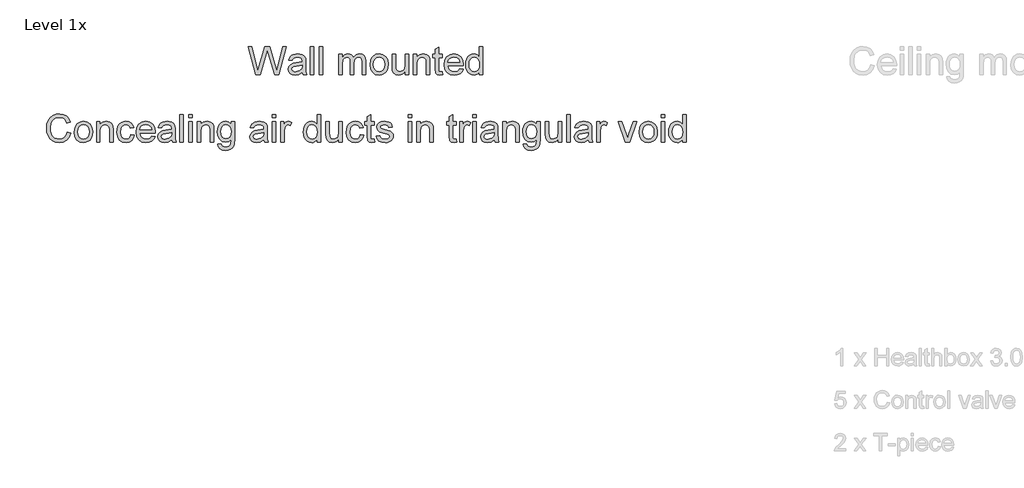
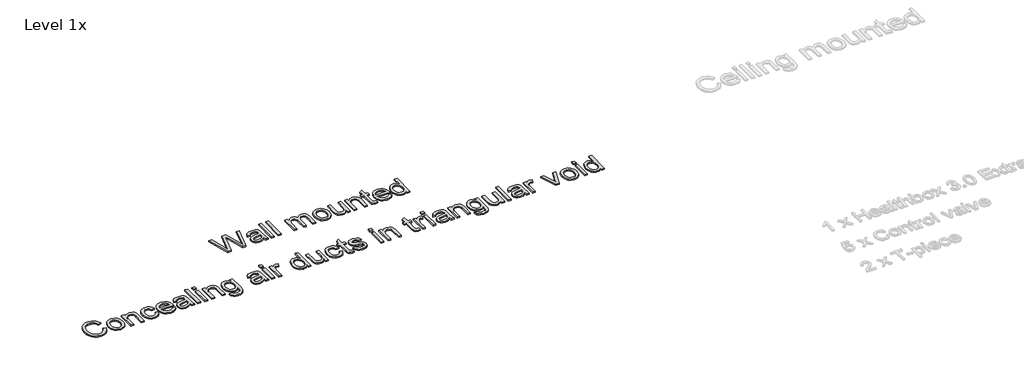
# One storey, part 5 of 7: 1 proxy.
"""IFC4 building model written with IfcOpenShell, lengths in millimetres."""

from ifc_helpers import new_model, si_unit, origin, origin_with_axes, place, context, project, spatial, polyline, outline, extrude, element, save

model = new_model("IFC4")

# Units and contexts
model_context = context("Model", 3, world=origin())
ifc_project = project(units=[si_unit("LENGTHUNIT", "METRE", prefix="MILLI")], contexts=[model_context])

# Site, building, storey
site = spatial("IfcSite", under=ifc_project)
building = spatial("IfcBuilding", under=site)
storey = spatial("IfcBuildingStorey", under=building, Name="Level 1x", Elevation=0.0)

# Proxy
placement = place(None, origin())
element("IfcBuildingElementProxy", 1, Name="190mm Arial", ObjectType="190mm Arial", at=placement, inside=storey, context=model_context, shape_type="SweptSolid", body=[
    extrude(outline(polyline([(-15730.0854469, 313.1270961), (-15782.1358442, 503.9940853), (-15757.5318963, 503.9940853), (-15727.3361422, 378.5512301), (-15718.016465, 339.8279713), (-15708.0444103, 374.077785), (-15670.2065209, 503.9940853), (-15634.7451491, 503.9940853), (-15607.2521013, 409.8187471), (-15586.7954098, 339.8279713), (-15577.7553229, 377.4328688), (-15547.2799785, 503.9940853), (-15522.6760306, 503.9940853), (-15574.7730262, 313.1270961), (-15600.2623434, 313.1270961), (-15646.0219585, 460.377996), (-15652.4059374, 480.9278842), (-15659.5820888, 456.1841412), (-15701.2876444, 313.1270961), (-15730.0854469, 313.1270961)])), origin_with_axes(), (0.0, 0.0, 1.0), 10.0),
    extrude(outline(polyline([(-15412.3310524, 331.0208763), (-15435.4671511, 314.8512363), (-15461.0263659, 310.1447993), (-15480.9646503, 312.9756513), (-15495.6722659, 321.4682072), (-15504.7414768, 334.3643105), (-15507.7645471, 350.4058049), (-15503.1979052, 369.2781512), (-15491.1988208, 382.9780767), (-15474.4932994, 390.8066056), (-15453.8502144, 394.3946813), (-15412.4708476, 402.5959973), (-15412.3310524, 407.9082133), (-15413.9736455, 418.5559445), (-15418.9014249, 425.5224032), (-15429.9219432, 430.6948241), (-15445.2761114, 432.4189644), (-15469.4140754, 427.8290233), (-15476.1824909, 421.4625188), (-15480.9238767, 411.5428874), (-15504.7822504, 414.5251841), (-15494.4607079, 437.8243771), (-15485.6652625, 445.6645556), (-15473.6778277, 451.4777043), (-15442.2006179, 456.277338), (-15413.2863193, 452.0368849), (-15396.953585, 441.3891537), (-15389.6376384, 425.1962145), (-15388.4726788, 404.3201376), (-15388.4726788, 374.6369656), (-15387.2611207, 333.1877012), (-15382.5080854, 313.1270961), (-15406.366459, 313.1270961), (-15412.3310524, 331.0208763)]), holes=[polyline([(-15412.3310524, 378.7376236), (-15450.8213193, 371.421677), (-15471.3479084, 367.554011), (-15480.6442864, 361.2632288), (-15483.9061734, 352.0833468), (-15482.1296099, 344.9887425), (-15476.7999195, 339.1755939), (-15468.0335982, 335.2962782), (-15455.9471418, 334.003173), (-15431.8091778, 339.7114753), (-15416.2453169, 353.5278968), (-15412.4708476, 371.9808576), (-15412.3310524, 378.7376236)])]), origin_with_axes(), (0.0, 0.0, 1.0), 10.0),
    extrude(outline(polyline([(-15355.667415, 313.1270961), (-15355.667415, 503.9940853), (-15331.8090413, 503.9940853), (-15331.8090413, 313.1270961), (-15355.667415, 313.1270961)])), origin_with_axes(), (0.0, 0.0, 1.0), 10.0),
    extrude(outline(polyline([(-15296.0214808, 313.1270961), (-15296.0214808, 503.9940853), (-15272.1631072, 503.9940853), (-15272.1631072, 313.1270961), (-15296.0214808, 313.1270961)])), origin_with_axes(), (0.0, 0.0, 1.0), 10.0),
    extrude(outline(polyline([(-15161.818129, 313.1270961), (-15161.818129, 453.2950413), (-15137.9597553, 453.2950413), (-15137.9597553, 430.2288402), (-15121.5571234, 449.1244858), (-15110.5948531, 454.489125), (-15098.211332, 456.277338), (-15084.9424416, 454.4541762), (-15074.30636, 448.9846906), (-15066.3613352, 440.2300188), (-15061.1656151, 428.5512983), (-15052.4691913, 440.6814407), (-15042.5495599, 449.3458281), (-15031.4067208, 454.5444605), (-15019.0406741, 456.277338), (-15001.1061203, 453.3940629), (-14987.8430547, 444.7442375), (-14979.6475635, 430.0948699), (-14976.9157331, 409.2129681), (-14976.9157331, 313.1270961), (-15000.7741068, 313.1270961), (-15000.7741068, 398.9613232), (-15002.9875301, 418.8821332), (-15011.0024525, 428.6910935), (-15024.6324805, 432.4189644), (-15037.5577078, 430.0307971), (-15048.0947678, 422.8662952), (-15055.1020001, 410.4361757), (-15057.4377442, 392.2511556), (-15057.4377442, 313.1270961), (-15081.2961179, 313.1270961), (-15081.2961179, 401.6174312), (-15082.6765951, 415.1076639), (-15086.8180266, 424.7302307), (-15094.1048493, 430.4967809), (-15104.9214996, 432.4189644), (-15122.5822879, 427.2931419), (-15129.5720458, 420.9790606), (-15134.3250812, 412.2884616), (-15137.9597553, 383.8168477), (-15137.9597553, 313.1270961), (-15161.818129, 313.1270961)])), origin_with_axes(), (0.0, 0.0, 1.0), 10.0),
    extrude(outline(polyline([(-14947.0927661, 383.2110687), (-14941.9319948, 417.0065482), (-14935.4810307, 430.1385558), (-14926.449681, 440.7600755), (-14907.3210436, 452.3980224), (-14884.4179368, 456.277338), (-14859.3538299, 451.5534266), (-14839.3339983, 437.3816925), (-14826.2107278, 414.8804968), (-14821.8363043, 385.1682009), (-14823.7701374, 361.0651857), (-14829.5716364, 342.7170712), (-14839.0718824, 328.9763721), (-14852.1019561, 318.6956032), (-14867.578445, 312.2825003), (-14884.4179368, 310.1447993), (-14909.7849332, 314.8512363), (-14929.7814656, 328.9705473), (-14942.764941, 351.9435516), (-14947.0927661, 383.2110687)]), holes=[polyline([(-14923.2343924, 383.2576671), (-14920.473438, 361.6651399), (-14912.1905749, 346.2818477), (-14899.7255066, 337.0728417), (-14884.4179368, 334.003173), (-14869.1802646, 337.0903161), (-14856.7384955, 346.3517453), (-14848.4556324, 361.9389054), (-14845.694678, 384.0032412), (-14848.4731068, 404.9666902), (-14856.8083931, 420.1402896), (-14869.2676365, 429.3492957), (-14884.4179368, 432.4189644), (-14899.7255066, 429.3609453), (-14912.1905749, 420.186888), (-14920.473438, 404.8385446), (-14923.2343924, 383.2576671)])]), origin_with_axes(), (0.0, 0.0, 1.0), 10.0),
    extrude(outline(polyline([(-14705.5267327, 313.1270961), (-14705.5267327, 337.2184616), (-14714.1590838, 325.3737344), (-14724.2126856, 316.9132149), (-14735.6875381, 311.8369032), (-14748.5836415, 310.1447993), (-14771.0207643, 314.8978347), (-14786.4914285, 326.8270216), (-14793.5976824, 344.3946131), (-14794.995634, 366.5754449), (-14794.995634, 453.2950413), (-14771.1372603, 453.2950413), (-14771.1372603, 377.8056559), (-14769.6927103, 353.4812984), (-14760.2565372, 339.1988931), (-14742.4792529, 334.003173), (-14722.5584428, 339.315389), (-14714.6192428, 345.5886967), (-14709.3943988, 353.7841879), (-14705.5267327, 380.3685671), (-14705.5267327, 453.2950413), (-14681.6683591, 453.2950413), (-14681.6683591, 313.1270961), (-14705.5267327, 313.1270961)])), origin_with_axes(), (0.0, 0.0, 1.0), 10.0),
    extrude(outline(polyline([(-14648.8630953, 313.1270961), (-14648.8630953, 453.2950413), (-14625.0047216, 453.2950413), (-14625.0047216, 433.7237192), (-14616.7160337, 443.5909274), (-14606.7614535, 450.6389333), (-14581.8546162, 456.277338), (-14559.3242965, 451.7339954), (-14543.9468291, 439.8048085), (-14536.7939768, 422.2605162), (-14535.5358204, 399.1943151), (-14535.5358204, 313.1270961), (-14559.3941941, 313.1270961), (-14559.3941941, 395.9790265), (-14562.1434988, 417.0880953), (-14571.8592623, 428.2484088), (-14588.238595, 432.4189644), (-14602.2122861, 430.0773955), (-14614.1239985, 423.0526888), (-14622.2845409, 409.4809088), (-14625.0047216, 387.4981202), (-14625.0047216, 313.1270961), (-14648.8630953, 313.1270961)])), origin_with_axes(), (0.0, 0.0, 1.0), 10.0),
    extrude(outline(polyline([(-14452.0315126, 333.0246069), (-14449.0492159, 312.4281203), (-14466.8963978, 310.1447993), (-14486.8871054, 314.1056622), (-14496.85916, 324.4971022), (-14499.7482599, 351.5707645), (-14499.7482599, 429.4366676), (-14517.6420402, 429.4366676), (-14517.6420402, 453.2950413), (-14499.7482599, 453.2950413), (-14499.7482599, 487.3584615), (-14475.8898863, 501.3845757), (-14475.8898863, 453.2950413), (-14452.0315126, 453.2950413), (-14452.0315126, 429.4366676), (-14475.8898863, 429.4366676), (-14475.8898863, 352.2697403), (-14474.6317298, 339.9677664), (-14470.5543711, 335.6108173), (-14462.4229527, 334.003173), (-14452.0315126, 333.0246069)])), origin_with_axes(), (0.0, 0.0, 1.0), 10.0),
    extrude(outline(polyline([(-14330.0369379, 354.87925), (-14306.6445481, 351.8969533), (-14315.0730312, 334.2711137), (-14328.5224904, 321.0954201), (-14346.6900361, 312.8824545), (-14369.272779, 310.1447993), (-14397.2667594, 314.8687107), (-14418.8068633, 329.0404449), (-14432.5417376, 351.7396837), (-14437.1200291, 382.046109), (-14432.4951392, 413.3718741), (-14418.6204698, 436.7992126), (-14397.3716058, 451.4078067), (-14370.6241322, 456.277338), (-14344.7096047, 451.4194563), (-14324.0024469, 436.845811), (-14310.4248422, 413.4650708), (-14305.8989739, 382.1859042), (-14306.0387691, 375.7553269), (-14413.2616554, 375.7553269), (-14409.1318734, 357.8964955), (-14399.5384307, 344.7674002), (-14385.6928853, 336.6942298), (-14368.8067951, 334.003173), (-14345.4144053, 338.9892003), (-14336.7238063, 345.4547264), (-14330.0369379, 354.87925)]), holes=[polyline([(-14413.2616554, 399.6137006), (-14329.7573476, 399.6137006), (-14332.9842858, 412.218564), (-14339.3100167, 421.2353517), (-14353.219635, 429.6230612), (-14370.7173289, 432.4189644), (-14386.7995969, 430.1880666), (-14400.0976113, 423.4953734), (-14409.3415662, 413.0631597), (-14413.2616554, 399.6137006)])]), origin_with_axes(), (0.0, 0.0, 1.0), 10.0),
    extrude(outline(polyline([(-14195.5539957, 313.1270961), (-14195.5539957, 335.6341165), (-14202.692286, 324.4825403), (-14211.339199, 316.5171286), (-14221.4947348, 311.7378817), (-14233.1588933, 310.1447993), (-14248.5829591, 312.4514195), (-14262.7022701, 319.3712798), (-14274.6547561, 330.4209221), (-14283.578347, 345.1168881), (-14289.1352045, 362.8650484), (-14290.9874904, 383.0712735), (-14289.2808245, 403.0270324), (-14284.1608268, 421.0489582), (-14275.6333222, 436.1118864), (-14263.7041354, 447.1906527), (-14249.2761101, 454.0056667), (-14233.2520901, 456.277338), (-14221.5791944, 454.6522193), (-14211.2576518, 449.7768632), (-14195.5539957, 432.8849482), (-14195.5539957, 503.9940853), (-14171.6956221, 503.9940853), (-14171.6956221, 313.1270961), (-14195.5539957, 313.1270961)]), holes=[polyline([(-14267.1291167, 383.1644703), (-14264.4380599, 361.5835928), (-14256.3648896, 346.2352493), (-14244.6337459, 337.0611921), (-14230.9687692, 334.003173), (-14217.3096172, 336.9213969), (-14205.8755383, 345.6760687), (-14198.1343814, 360.4302827), (-14195.5539957, 381.3471332), (-14198.1809798, 404.2152912), (-14206.0619318, 420.0703921), (-14217.7872507, 429.3318213), (-14231.9473353, 432.4189644), (-14245.7521071, 429.454142), (-14257.0638653, 420.5596751), (-14264.6128039, 405.2812293), (-14267.1291167, 383.1644703)])]), origin_with_axes(), (0.0, 0.0, 1.0), 10.0),
    extrude(outline(polyline([(-17024.2624229, -82.5299617), (-17000.4040492, -88.6809486), (-17011.4129179, -116.4827107), (-17028.6892696, -136.7937822), (-17051.3826836, -149.2180769), (-17078.6427394, -153.3595085), (-17106.3163559, -150.225767), (-17128.2933197, -140.8245426), (-17145.1386363, -125.482024), (-17157.417311, -104.5243999), (-17164.9138264, -79.8855033), (-17167.4126648, -53.4991671), (-17164.5876377, -25.6682811), (-17156.1125562, -1.6351635), (-17142.4301051, 17.8371371), (-17123.982969, 31.9855721), (-17102.1050268, 40.6004487), (-17078.1301572, 43.4720742), (-17051.9709882, 39.7558529), (-17030.3435123, 28.6071891), (-17013.923406, 10.7134088), (-17003.3863459, -13.2381616), (-17027.2447196, -18.9231647), (-17035.5159331, -1.5244923), (-17046.8160417, 10.4105193), (-17061.2848406, 17.3129053), (-17079.0621249, 19.6137006), (-17099.5537651, 17.0624389), (-17116.3874321, 9.408654), (-17129.1612147, -2.543832), (-17137.4732018, -17.991197), (-17143.5542912, -53.4525688), (-17141.7544285, -75.4936054), (-17136.3548405, -94.5523453), (-17127.1516593, -109.9006887), (-17113.9410168, -120.8105358), (-17098.1033904, -127.3284851), (-17081.0192571, -129.5011348), (-17061.1042719, -126.5421373), (-17044.5094216, -117.6651447), (-17031.9802806, -102.9633539), (-17024.2624229, -82.5299617)])), origin_with_axes(), (0.0, 0.0, 1.0), 10.0),
    extrude(outline(polyline([(-16976.5456756, -80.2932391), (-16971.3849043, -46.4977596), (-16964.9339402, -33.365752), (-16955.9025905, -22.7442324), (-16936.7739531, -11.1062854), (-16913.8708463, -7.2269698), (-16888.8067394, -11.9508812), (-16868.7869078, -26.1226153), (-16855.6636373, -48.623811), (-16851.2892138, -78.3361069), (-16853.2230469, -102.4391221), (-16859.0245459, -120.7872366), (-16868.5247919, -134.5279357), (-16881.5548656, -144.8087046), (-16897.0313545, -151.2218075), (-16913.8708463, -153.3595085), (-16939.2378427, -148.6530715), (-16959.2343751, -134.5337605), (-16972.2178504, -111.5607562), (-16976.5456756, -80.2932391)]), holes=[polyline([(-16952.6873019, -80.2466407), (-16949.9263475, -101.8391679), (-16941.6434844, -117.2224601), (-16929.1784161, -126.4314661), (-16913.8708463, -129.5011348), (-16898.6331741, -126.4139917), (-16886.191405, -117.1525625), (-16877.9085419, -101.5654024), (-16875.1475875, -79.5010666), (-16877.9260163, -58.5376176), (-16886.2613026, -43.3640182), (-16898.720546, -34.1550121), (-16913.8708463, -31.0853435), (-16929.1784161, -34.1433625), (-16941.6434844, -43.3174198), (-16949.9263475, -58.6657632), (-16952.6873019, -80.2466407)])]), origin_with_axes(), (0.0, 0.0, 1.0), 10.0),
    extrude(outline(polyline([(-16824.4485435, -150.3772118), (-16824.4485435, -10.2092665), (-16800.5901698, -10.2092665), (-16800.5901698, -29.7805886), (-16792.3014819, -19.9133804), (-16782.3469017, -12.8653745), (-16757.4400643, -7.2269698), (-16734.9097447, -11.7703124), (-16719.5322773, -23.6994993), (-16712.379425, -41.2437916), (-16711.1212686, -64.3099927), (-16711.1212686, -150.3772118), (-16734.9796422, -150.3772118), (-16734.9796422, -67.5252814), (-16737.728947, -46.4162125), (-16747.4447105, -35.255899), (-16763.8240432, -31.0853435), (-16777.7977342, -33.4269124), (-16789.7094467, -40.4516191), (-16797.869989, -54.023399), (-16800.5901698, -76.0061876), (-16800.5901698, -150.3772118), (-16824.4485435, -150.3772118)])), origin_with_axes(), (0.0, 0.0, 1.0), 10.0),
    extrude(outline(polyline([(-16588.8471036, -99.6781677), (-16564.9887299, -102.6604644), (-16571.6406495, -123.8802045), (-16584.1406666, -139.9158741), (-16601.3121718, -149.9985999), (-16621.9785561, -153.3595085), (-16647.3572021, -148.6705459), (-16667.2022897, -134.6036581), (-16680.0110211, -111.7762737), (-16684.2805982, -80.8058214), (-16682.4574364, -59.5744317), (-16676.9879508, -41.173894), (-16667.7847695, -26.3148337), (-16654.7605206, -15.7078761), (-16639.1791853, -9.3471964), (-16622.3047448, -7.2269698), (-16602.145118, -10.1393689), (-16586.0279012, -18.8765663), (-16574.4656767, -32.9725781), (-16567.9710266, -51.9614204), (-16591.8294003, -54.9437171), (-16596.1572254, -44.5348026), (-16602.896517, -37.0732361), (-16611.6744879, -32.5823166), (-16622.1183512, -31.0853435), (-16637.5365922, -34.0326914), (-16649.7744933, -42.8747351), (-16657.7602917, -58.0891082), (-16660.4222246, -80.153444), (-16657.8185397, -102.5148445), (-16650.0074853, -117.7816407), (-16637.9909265, -126.5712613), (-16622.7707286, -129.5011348), (-16610.4163315, -127.6721482), (-16600.2870073, -122.1851882), (-16592.9186376, -112.9004598), (-16588.8471036, -99.6781677)])), origin_with_axes(), (0.0, 0.0, 1.0), 10.0),
    extrude(outline(polyline([(-16445.9764519, -108.6250579), (-16422.5840621, -111.6073546), (-16431.0125452, -129.2331941), (-16444.4620044, -142.4088877), (-16462.6295501, -150.6218533), (-16485.212293, -153.3595085), (-16513.2062734, -148.6355971), (-16534.7463774, -134.4638629), (-16548.4812516, -111.7646241), (-16553.0595431, -81.4581988), (-16548.4346533, -50.1324338), (-16534.5599838, -26.7050952), (-16513.3111198, -12.0965011), (-16486.5636462, -7.2269698), (-16460.6491187, -12.0848515), (-16439.9419609, -26.6584968), (-16426.3643562, -50.039237), (-16421.8384879, -81.3184036), (-16421.9782831, -87.7489809), (-16529.2011694, -87.7489809), (-16525.0713875, -105.6078124), (-16515.4779447, -118.7369076), (-16501.6323993, -126.810078), (-16484.7463091, -129.5011348), (-16461.3539193, -124.5151075), (-16452.6633203, -118.0495814), (-16445.9764519, -108.6250579)]), holes=[polyline([(-16529.2011694, -63.8906072), (-16445.6968616, -63.8906072), (-16448.9237998, -51.2857438), (-16455.2495307, -42.2689561), (-16469.159149, -33.8812466), (-16486.656843, -31.0853435), (-16502.7391109, -33.3162412), (-16516.0371254, -40.0089344), (-16525.2810802, -50.4411481), (-16529.2011694, -63.8906072)])]), origin_with_axes(), (0.0, 0.0, 1.0), 10.0),
    extrude(outline(polyline([(-16308.5112131, -132.4834315), (-16331.6473117, -148.6530715), (-16357.2065265, -153.3595085), (-16377.1448109, -150.5286565), (-16391.8524265, -142.0361007), (-16400.9216374, -129.1399973), (-16403.9447077, -113.0985029), (-16399.3780659, -94.2261566), (-16387.3789815, -80.5262311), (-16370.6734601, -72.6977022), (-16350.030375, -69.1096265), (-16308.6510082, -60.9083105), (-16308.5112131, -55.5960945), (-16310.1538062, -44.9483633), (-16315.0815855, -37.9819046), (-16326.1021038, -32.8094837), (-16341.456272, -31.0853435), (-16365.594236, -35.6752845), (-16372.3626516, -42.041789), (-16377.1040373, -51.9614204), (-16400.962411, -48.9791237), (-16390.6408685, -25.6799307), (-16381.8454231, -17.8397522), (-16369.8579883, -12.0266036), (-16338.3807785, -7.2269698), (-16309.46648, -11.4674229), (-16293.1337457, -22.1151541), (-16285.8177991, -38.3080933), (-16284.6528394, -59.1841702), (-16284.6528394, -88.8673422), (-16283.4412814, -130.3166066), (-16278.688246, -150.3772118), (-16302.5466196, -150.3772118), (-16308.5112131, -132.4834315)]), holes=[polyline([(-16308.5112131, -84.7666842), (-16347.0014799, -92.0826308), (-16367.528069, -95.9502968), (-16376.824447, -102.241079), (-16380.086334, -111.420961), (-16378.3097706, -118.5155653), (-16372.9800802, -124.328714), (-16364.2137588, -128.2080296), (-16352.1273024, -129.5011348), (-16327.9893384, -123.7928325), (-16312.4254775, -109.976411), (-16308.6510082, -91.5234502), (-16308.5112131, -84.7666842)])]), origin_with_axes(), (0.0, 0.0, 1.0), 10.0),
    extrude(outline(polyline([(-16251.8475756, -150.3772118), (-16251.8475756, 40.4897775), (-16227.989202, 40.4897775), (-16227.989202, -150.3772118), (-16251.8475756, -150.3772118)])), origin_with_axes(), (0.0, 0.0, 1.0), 10.0),
    extrude(outline(polyline([(-16192.2016415, -150.3772118), (-16192.2016415, -10.2092665), (-16168.3432678, -10.2092665), (-16168.3432678, -150.3772118), (-16192.2016415, -150.3772118)])), origin_with_axes(), (0.0, 0.0, 1.0), 10.0),
    extrude(outline(polyline([(-16192.2016415, 16.6314039), (-16192.2016415, 40.4897775), (-16168.3432678, 40.4897775), (-16168.3432678, 16.6314039), (-16192.2016415, 16.6314039)])), origin_with_axes(), (0.0, 0.0, 1.0), 10.0),
    extrude(outline(polyline([(-16132.5557073, -150.3772118), (-16132.5557073, -10.2092665), (-16108.6973337, -10.2092665), (-16108.6973337, -29.7805886), (-16100.4086457, -19.9133804), (-16090.4540655, -12.8653745), (-16065.5472282, -7.2269698), (-16043.0169085, -11.7703124), (-16027.6394411, -23.6994993), (-16020.4865888, -41.2437916), (-16019.2284324, -64.3099927), (-16019.2284324, -150.3772118), (-16043.0868061, -150.3772118), (-16043.0868061, -67.5252814), (-16045.8361109, -46.4162125), (-16055.5518744, -35.255899), (-16071.9312071, -31.0853435), (-16085.9048981, -33.4269124), (-16097.8166105, -40.4516191), (-16105.9771529, -54.023399), (-16108.6973337, -76.0061876), (-16108.6973337, -150.3772118), (-16132.5557073, -150.3772118)])), origin_with_axes(), (0.0, 0.0, 1.0), 10.0),
    extrude(outline(polyline([(-15992.3877621, -162.3063986), (-15968.5293884, -165.2886953), (-15965.8965796, -172.7444371), (-15960.7940563, -177.8702595), (-15950.7637537, -181.8544215), (-15937.6346584, -183.1824755), (-15923.6318434, -181.6796776), (-15913.2171041, -177.1712837), (-15905.9943543, -169.9485339), (-15901.5675076, -160.302668), (-15899.9365641, -132.4834315), (-15916.7352823, -145.9037667), (-15937.215273, -150.3772118), (-15961.813396, -145.1698421), (-15980.1556857, -129.5477332), (-15991.5664655, -106.6446264), (-15995.3700588, -79.5942633), (-15993.6633929, -60.3316555), (-15988.5433952, -42.618444), (-15980.1906345, -27.6079389), (-15968.7856795, -16.4534502), (-15954.7187917, -9.5335899), (-15938.3802326, -7.2269698), (-15917.0964198, -12.445989), (-15899.9365641, -28.1030467), (-15899.9365641, -10.2092665), (-15876.0781905, -10.2092665), (-15876.0781905, -131.2252751), (-15877.709134, -159.1668323), (-15882.6019645, -177.56737), (-15891.0304476, -189.7703224), (-15903.2683487, -199.1191236), (-15919.0477272, -205.0604178), (-15938.1006423, -207.0408492), (-15960.2989485, -204.2507708), (-15977.779168, -195.8805357), (-15988.9919047, -181.9068447), (-15992.3877621, -162.3063986)]), holes=[polyline([(-15971.5116851, -77.9633198), (-15968.9662483, -99.8470869), (-15961.3299378, -114.8925408), (-15949.8492604, -123.6122638), (-15935.770723, -126.5188381), (-15921.797032, -123.6297382), (-15910.2581066, -114.9624384), (-15902.5169498, -100.1092028), (-15899.9365641, -78.6622956), (-15902.5926721, -57.978437), (-15910.5609961, -43.0844279), (-15922.2688406, -34.0851146), (-15936.1435101, -31.0853435), (-15949.7677132, -34.0385162), (-15961.1901426, -42.8980343), (-15968.9312995, -57.5707011), (-15971.5116851, -77.9633198)])]), origin_with_axes(), (0.0, 0.0, 1.0), 10.0),
    extrude(outline(polyline([(-15676.2643111, -132.4834315), (-15699.4004097, -148.6530715), (-15724.9596245, -153.3595085), (-15744.8979089, -150.5286565), (-15759.6055245, -142.0361007), (-15768.6747354, -129.1399973), (-15771.6978057, -113.0985029), (-15767.1311639, -94.2261566), (-15755.1320795, -80.5262311), (-15738.4265581, -72.6977022), (-15717.783473, -69.1096265), (-15676.4041062, -60.9083105), (-15676.2643111, -55.5960945), (-15677.9069042, -44.9483633), (-15682.8346835, -37.9819046), (-15693.8552018, -32.8094837), (-15709.20937, -31.0853435), (-15733.347334, -35.6752845), (-15740.1157495, -42.041789), (-15744.8571353, -51.9614204), (-15768.715509, -48.9791237), (-15758.3939665, -25.6799307), (-15749.5985211, -17.8397522), (-15737.6110863, -12.0266036), (-15706.1338765, -7.2269698), (-15677.219578, -11.4674229), (-15660.8868437, -22.1151541), (-15653.570897, -38.3080933), (-15652.4059374, -59.1841702), (-15652.4059374, -88.8673422), (-15651.1943794, -130.3166066), (-15646.441344, -150.3772118), (-15670.2997176, -150.3772118), (-15676.2643111, -132.4834315)]), holes=[polyline([(-15676.2643111, -84.7666842), (-15714.7545779, -92.0826308), (-15735.281167, -95.9502968), (-15744.577545, -102.241079), (-15747.839432, -111.420961), (-15746.0628686, -118.5155653), (-15740.7331782, -124.328714), (-15731.9668568, -128.2080296), (-15719.8804004, -129.5011348), (-15695.7424364, -123.7928325), (-15680.1785755, -109.976411), (-15676.4041062, -91.5234502), (-15676.2643111, -84.7666842)])]), origin_with_axes(), (0.0, 0.0, 1.0), 10.0),
    extrude(outline(polyline([(-15619.6006736, -150.3772118), (-15619.6006736, -10.2092665), (-15595.7423, -10.2092665), (-15595.7423, -150.3772118), (-15619.6006736, -150.3772118)])), origin_with_axes(), (0.0, 0.0, 1.0), 10.0),
    extrude(outline(polyline([(-15619.6006736, 16.6314039), (-15619.6006736, 40.4897775), (-15595.7423, 40.4897775), (-15595.7423, 16.6314039), (-15619.6006736, 16.6314039)])), origin_with_axes(), (0.0, 0.0, 1.0), 10.0),
    extrude(outline(polyline([(-15559.9547395, -150.3772118), (-15559.9547395, -10.2092665), (-15539.0786625, -10.2092665), (-15539.0786625, -30.9455483), (-15524.2603757, -11.84021), (-15509.3488922, -7.2269698), (-15497.4663038, -9.067606), (-15485.3973218, -14.5895148), (-15493.3656458, -35.978174), (-15510.1410648, -31.0853435), (-15523.6312975, -35.7917804), (-15532.2286998, -48.8393285), (-15536.0963658, -76.7051634), (-15536.0963658, -150.3772118), (-15559.9547395, -150.3772118)])), origin_with_axes(), (0.0, 0.0, 1.0), 10.0),
    extrude(outline(polyline([(-15309.441816, -150.3772118), (-15309.441816, -127.8701913), (-15316.5801063, -139.0217676), (-15325.2270193, -146.9871792), (-15335.3825551, -151.7664261), (-15347.0467136, -153.3595085), (-15362.4707794, -151.0528884), (-15376.5900903, -144.133028), (-15388.5425764, -133.0833857), (-15397.4661673, -118.3874197), (-15403.0230248, -100.6392594), (-15404.8753107, -80.4330343), (-15403.1686448, -60.4772755), (-15398.0486471, -42.4553497), (-15389.5211425, -27.3924214), (-15377.5919556, -16.3136551), (-15363.1639303, -9.4986411), (-15347.1399103, -7.2269698), (-15335.4670146, -8.8520885), (-15325.1454721, -13.7274447), (-15309.441816, -30.6193596), (-15309.441816, 40.4897775), (-15285.5834424, 40.4897775), (-15285.5834424, -150.3772118), (-15309.441816, -150.3772118)]), holes=[polyline([(-15381.016937, -80.3398375), (-15378.3258802, -101.9207151), (-15370.2527098, -117.2690585), (-15358.5215661, -126.4431157), (-15344.8565894, -129.5011348), (-15331.1974375, -126.5829109), (-15319.7633585, -117.8282391), (-15312.0222017, -103.0740251), (-15309.441816, -82.1571746), (-15312.0688, -59.2890166), (-15319.9497521, -43.4339158), (-15331.675071, -34.1724865), (-15345.8351555, -31.0853435), (-15359.6399274, -34.0501658), (-15370.9516856, -42.9446327), (-15378.5006242, -58.2230785), (-15381.016937, -80.3398375)])]), origin_with_axes(), (0.0, 0.0, 1.0), 10.0),
    extrude(outline(polyline([(-15160.3269806, -150.3772118), (-15160.3269806, -126.2858462), (-15168.9593317, -138.1305734), (-15179.0129335, -146.5910929), (-15190.487786, -151.6674046), (-15203.3838894, -153.3595085), (-15225.8210122, -148.6064731), (-15241.2916764, -136.6772863), (-15248.3979303, -119.1096947), (-15249.7958819, -96.928863), (-15249.7958819, -10.2092665), (-15225.9375082, -10.2092665), (-15225.9375082, -85.6986519), (-15224.4929582, -110.0230094), (-15215.0567851, -124.3054148), (-15197.2795008, -129.5011348), (-15177.3586907, -124.1889188), (-15169.4194907, -117.9156111), (-15164.1946467, -109.7201199), (-15160.3269806, -83.1357407), (-15160.3269806, -10.2092665), (-15136.468607, -10.2092665), (-15136.468607, -150.3772118), (-15160.3269806, -150.3772118)])), origin_with_axes(), (0.0, 0.0, 1.0), 10.0),
    extrude(outline(polyline([(-15014.194442, -99.6781677), (-14990.3360683, -102.6604644), (-14996.9879879, -123.8802045), (-15009.488005, -139.9158741), (-15026.6595102, -149.9985999), (-15047.3258945, -153.3595085), (-15072.7045405, -148.6705459), (-15092.5496281, -134.6036581), (-15105.3583595, -111.7762737), (-15109.6279366, -80.8058214), (-15107.8047748, -59.5744317), (-15102.3352892, -41.173894), (-15093.132108, -26.3148337), (-15080.1078591, -15.7078761), (-15064.5265237, -9.3471964), (-15047.6520832, -7.2269698), (-15027.4924564, -10.1393689), (-15011.3752396, -18.8765663), (-14999.8130151, -32.9725781), (-14993.318365, -51.9614204), (-15017.1767387, -54.9437171), (-15021.5045638, -44.5348026), (-15028.2438554, -37.0732361), (-15037.0218263, -32.5823166), (-15047.4656896, -31.0853435), (-15062.8839306, -34.0326914), (-15075.1218317, -42.8747351), (-15083.1076302, -58.0891082), (-15085.769563, -80.153444), (-15083.1658781, -102.5148445), (-15075.3548237, -117.7816407), (-15063.3382649, -126.5712613), (-15048.118067, -129.5011348), (-15035.7636699, -127.6721482), (-15025.6343458, -122.1851882), (-15018.265976, -112.9004598), (-15014.194442, -99.6781677)])), origin_with_axes(), (0.0, 0.0, 1.0), 10.0),
    extrude(outline(polyline([(-14918.7609473, -130.4797009), (-14915.7786506, -151.0761876), (-14933.6258325, -153.3595085), (-14953.6165401, -149.3986457), (-14963.5885947, -139.0072056), (-14966.4776947, -111.9335433), (-14966.4776947, -34.0676402), (-14984.3714749, -34.0676402), (-14984.3714749, -10.2092665), (-14966.4776947, -10.2092665), (-14966.4776947, 23.8541537), (-14942.619321, 37.8802679), (-14942.619321, -10.2092665), (-14918.7609473, -10.2092665), (-14918.7609473, -34.0676402), (-14942.619321, -34.0676402), (-14942.619321, -111.2345675), (-14941.3611646, -123.5365414), (-14937.2838058, -127.8934905), (-14929.1523874, -129.5011348), (-14918.7609473, -130.4797009)])), origin_with_axes(), (0.0, 0.0, 1.0), 10.0),
    extrude(outline(polyline([(-14903.8494638, -108.6250579), (-14879.9910901, -105.6427611), (-14876.2282705, -115.8478077), (-14868.9472726, -123.3501478), (-14858.1014983, -127.9633881), (-14843.644349, -129.5011348), (-14829.3619437, -128.0915336), (-14819.3199915, -123.8627301), (-14813.3786973, -117.7350423), (-14811.3982659, -110.6287885), (-14813.3903469, -104.5476991), (-14819.3665899, -99.9111597), (-14843.9239393, -93.1077953), (-14879.851295, -81.4348996), (-14895.5316519, -67.8048717), (-14900.8671671, -48.5597382), (-14896.5801156, -30.7824539), (-14884.8839207, -17.1990244), (-14869.716146, -10.1393689), (-14849.189557, -7.2269698), (-14820.1587624, -11.9101076), (-14809.3013385, -17.4203667), (-14801.7058016, -24.5848686), (-14793.5044856, -45.996827), (-14817.3628593, -48.9791237), (-14820.37428, -41.4709587), (-14826.3330486, -35.8150796), (-14847.3256215, -31.0853435), (-14870.1588307, -35.6053869), (-14875.2963027, -40.4982174), (-14877.0087934, -46.1366222), (-14874.1662919, -53.0797817), (-14865.2660001, -58.3453993), (-14844.7161119, -63.4246234), (-14809.6974248, -74.6548344), (-14793.434588, -87.3761938), (-14789.0135662, -96.7308198), (-14787.5398922, -108.1124756), (-14789.2698573, -119.8785681), (-14794.4597525, -130.9456848), (-14802.9115348, -140.4459307), (-14814.427161, -147.511411), (-14828.3367792, -151.8974841), (-14843.9705377, -153.3595085), (-14868.0269545, -150.5403061), (-14885.5828965, -142.082699), (-14897.3023906, -128.079884), (-14903.8494638, -108.6250579)])), origin_with_axes(), (0.0, 0.0, 1.0), 10.0),
    extrude(outline(polyline([(-14686.1418041, -150.3772118), (-14686.1418041, -10.2092665), (-14662.2834305, -10.2092665), (-14662.2834305, -150.3772118), (-14686.1418041, -150.3772118)])), origin_with_axes(), (0.0, 0.0, 1.0), 10.0),
    extrude(outline(polyline([(-14686.1418041, 16.6314039), (-14686.1418041, 40.4897775), (-14662.2834305, 40.4897775), (-14662.2834305, 16.6314039), (-14686.1418041, 16.6314039)])), origin_with_axes(), (0.0, 0.0, 1.0), 10.0),
    extrude(outline(polyline([(-14626.49587, -150.3772118), (-14626.49587, -10.2092665), (-14602.6374963, -10.2092665), (-14602.6374963, -29.7805886), (-14594.3488084, -19.9133804), (-14584.3942282, -12.8653745), (-14559.4873908, -7.2269698), (-14536.9570712, -11.7703124), (-14521.5796038, -23.6994993), (-14514.4267515, -41.2437916), (-14513.1685951, -64.3099927), (-14513.1685951, -150.3772118), (-14537.0269688, -150.3772118), (-14537.0269688, -67.5252814), (-14539.7762735, -46.4162125), (-14549.492037, -35.255899), (-14565.8713697, -31.0853435), (-14579.8450608, -33.4269124), (-14591.7567732, -40.4516191), (-14599.9173155, -54.023399), (-14602.6374963, -76.0061876), (-14602.6374963, -150.3772118), (-14626.49587, -150.3772118)])), origin_with_axes(), (0.0, 0.0, 1.0), 10.0),
    extrude(outline(polyline([(-14355.1068696, -130.4797009), (-14352.1245729, -151.0761876), (-14369.9717548, -153.3595085), (-14389.9624624, -149.3986457), (-14399.934517, -139.0072056), (-14402.8236169, -111.9335433), (-14402.8236169, -34.0676402), (-14420.7173972, -34.0676402), (-14420.7173972, -10.2092665), (-14402.8236169, -10.2092665), (-14402.8236169, 23.8541537), (-14378.9652433, 37.8802679), (-14378.9652433, -10.2092665), (-14355.1068696, -10.2092665), (-14355.1068696, -34.0676402), (-14378.9652433, -34.0676402), (-14378.9652433, -111.2345675), (-14377.7070868, -123.5365414), (-14373.6297281, -127.8934905), (-14365.4983097, -129.5011348), (-14355.1068696, -130.4797009)])), origin_with_axes(), (0.0, 0.0, 1.0), 10.0),
    extrude(outline(polyline([(-14331.2484959, -150.3772118), (-14331.2484959, -10.2092665), (-14310.372419, -10.2092665), (-14310.372419, -30.9455483), (-14295.5541322, -11.84021), (-14280.6426487, -7.2269698), (-14268.7600602, -9.067606), (-14256.6910783, -14.5895148), (-14264.6594023, -35.978174), (-14281.4348212, -31.0853435), (-14294.925054, -35.7917804), (-14303.5224562, -48.8393285), (-14307.3901223, -76.7051634), (-14307.3901223, -150.3772118), (-14331.2484959, -150.3772118)])), origin_with_axes(), (0.0, 0.0, 1.0), 10.0),
    extrude(outline(polyline([(-14241.7795947, -150.3772118), (-14241.7795947, -10.2092665), (-14217.9212211, -10.2092665), (-14217.9212211, -150.3772118), (-14241.7795947, -150.3772118)])), origin_with_axes(), (0.0, 0.0, 1.0), 10.0),
    extrude(outline(polyline([(-14241.7795947, 16.6314039), (-14241.7795947, 40.4897775), (-14217.9212211, 40.4897775), (-14217.9212211, 16.6314039), (-14241.7795947, 16.6314039)])), origin_with_axes(), (0.0, 0.0, 1.0), 10.0),
    extrude(outline(polyline([(-14092.6647593, -132.4834315), (-14115.800858, -148.6530715), (-14141.3600728, -153.3595085), (-14161.2983572, -150.5286565), (-14176.0059728, -142.0361007), (-14185.0751837, -129.1399973), (-14188.098254, -113.0985029), (-14183.5316121, -94.2261566), (-14171.5325277, -80.5262311), (-14154.8270063, -72.6977022), (-14134.1839213, -69.1096265), (-14092.8045545, -60.9083105), (-14092.6647593, -55.5960945), (-14094.3073524, -44.9483633), (-14099.2351318, -37.9819046), (-14110.2556501, -32.8094837), (-14125.6098183, -31.0853435), (-14149.7477823, -35.6752845), (-14156.5161978, -42.041789), (-14161.2575836, -51.9614204), (-14185.1159573, -48.9791237), (-14174.7944148, -25.6799307), (-14165.9989694, -17.8397522), (-14154.0115346, -12.0266036), (-14122.5343248, -7.2269698), (-14093.6200263, -11.4674229), (-14077.2872919, -22.1151541), (-14069.9713453, -38.3080933), (-14068.8063857, -59.1841702), (-14068.8063857, -88.8673422), (-14067.5948276, -130.3166066), (-14062.8417923, -150.3772118), (-14086.7001659, -150.3772118), (-14092.6647593, -132.4834315)]), holes=[polyline([(-14092.6647593, -84.7666842), (-14131.1550262, -92.0826308), (-14151.6816153, -95.9502968), (-14160.9779933, -102.241079), (-14164.2398803, -111.420961), (-14162.4633169, -118.5155653), (-14157.1336264, -124.328714), (-14148.3673051, -128.2080296), (-14136.2808487, -129.5011348), (-14112.1428847, -123.7928325), (-14096.5790238, -109.976411), (-14092.8045545, -91.5234502), (-14092.6647593, -84.7666842)])]), origin_with_axes(), (0.0, 0.0, 1.0), 10.0),
    extrude(outline(polyline([(-14036.0011219, -150.3772118), (-14036.0011219, -10.2092665), (-14012.1427482, -10.2092665), (-14012.1427482, -29.7805886), (-14003.8540603, -19.9133804), (-13993.8994801, -12.8653745), (-13968.9926427, -7.2269698), (-13946.4623231, -11.7703124), (-13931.0848557, -23.6994993), (-13923.9320034, -41.2437916), (-13922.673847, -64.3099927), (-13922.673847, -150.3772118), (-13946.5322207, -150.3772118), (-13946.5322207, -67.5252814), (-13949.2815254, -46.4162125), (-13958.9972889, -35.255899), (-13975.3766216, -31.0853435), (-13989.3503127, -33.4269124), (-14001.2620251, -40.4516191), (-14009.4225674, -54.023399), (-14012.1427482, -76.0061876), (-14012.1427482, -150.3772118), (-14036.0011219, -150.3772118)])), origin_with_axes(), (0.0, 0.0, 1.0), 10.0),
    extrude(outline(polyline([(-13895.8331766, -162.3063986), (-13871.974803, -165.2886953), (-13869.3419942, -172.7444371), (-13864.2394709, -177.8702595), (-13854.2091683, -181.8544215), (-13841.080073, -183.1824755), (-13827.077258, -181.6796776), (-13816.6625187, -177.1712837), (-13809.4397689, -169.9485339), (-13805.0129222, -160.302668), (-13803.3819787, -132.4834315), (-13820.1806969, -145.9037667), (-13840.6606875, -150.3772118), (-13865.2588106, -145.1698421), (-13883.6011003, -129.5477332), (-13895.0118801, -106.6446264), (-13898.8154733, -79.5942633), (-13897.1088075, -60.3316555), (-13891.9888098, -42.618444), (-13883.6360491, -27.6079389), (-13872.2310941, -16.4534502), (-13858.1642063, -9.5335899), (-13841.8256472, -7.2269698), (-13820.5418344, -12.445989), (-13803.3819787, -28.1030467), (-13803.3819787, -10.2092665), (-13779.523605, -10.2092665), (-13779.523605, -131.2252751), (-13781.1545486, -159.1668323), (-13786.0473791, -177.56737), (-13794.4758622, -189.7703224), (-13806.7137633, -199.1191236), (-13822.4931418, -205.0604178), (-13841.5460569, -207.0408492), (-13863.744363, -204.2507708), (-13881.2245826, -195.8805357), (-13892.4373193, -181.9068447), (-13895.8331766, -162.3063986)]), holes=[polyline([(-13874.9570997, -77.9633198), (-13872.4116628, -99.8470869), (-13864.7753523, -114.8925408), (-13853.294675, -123.6122638), (-13839.2161376, -126.5188381), (-13825.2424466, -123.6297382), (-13813.7035212, -114.9624384), (-13805.9623643, -100.1092028), (-13803.3819787, -78.6622956), (-13806.0380867, -57.978437), (-13814.0064107, -43.0844279), (-13825.7142552, -34.0851146), (-13839.5889247, -31.0853435), (-13853.2131278, -34.0385162), (-13864.6355572, -42.8980343), (-13872.3767141, -57.5707011), (-13874.9570997, -77.9633198)])]), origin_with_axes(), (0.0, 0.0, 1.0), 10.0),
    extrude(outline(polyline([(-13654.2671433, -150.3772118), (-13654.2671433, -126.2858462), (-13662.8994943, -138.1305734), (-13672.9530961, -146.5910929), (-13684.4279487, -151.6674046), (-13697.324052, -153.3595085), (-13719.7611749, -148.6064731), (-13735.2318391, -136.6772863), (-13742.338093, -119.1096947), (-13743.7360446, -96.928863), (-13743.7360446, -10.2092665), (-13719.8776709, -10.2092665), (-13719.8776709, -85.6986519), (-13718.4331209, -110.0230094), (-13708.9969477, -124.3054148), (-13691.2196635, -129.5011348), (-13671.2988534, -124.1889188), (-13663.3596534, -117.9156111), (-13658.1348094, -109.7201199), (-13654.2671433, -83.1357407), (-13654.2671433, -10.2092665), (-13630.4087697, -10.2092665), (-13630.4087697, -150.3772118), (-13654.2671433, -150.3772118)])), origin_with_axes(), (0.0, 0.0, 1.0), 10.0),
    extrude(outline(polyline([(-13597.6035059, -150.3772118), (-13597.6035059, 40.4897775), (-13573.7451322, 40.4897775), (-13573.7451322, -150.3772118), (-13597.6035059, -150.3772118)])), origin_with_axes(), (0.0, 0.0, 1.0), 10.0),
    extrude(outline(polyline([(-13448.4886705, -132.4834315), (-13471.6247692, -148.6530715), (-13497.1839839, -153.3595085), (-13517.1222684, -150.5286565), (-13531.829884, -142.0361007), (-13540.8990948, -129.1399973), (-13543.9221651, -113.0985029), (-13539.3555233, -94.2261566), (-13527.3564389, -80.5262311), (-13510.6509175, -72.6977022), (-13490.0078325, -69.1096265), (-13448.6284657, -60.9083105), (-13448.4886705, -55.5960945), (-13450.1312636, -44.9483633), (-13455.0590429, -37.9819046), (-13466.0795612, -32.8094837), (-13481.4337294, -31.0853435), (-13505.5716934, -35.6752845), (-13512.340109, -42.041789), (-13517.0814948, -51.9614204), (-13540.9398684, -48.9791237), (-13530.6183259, -25.6799307), (-13521.8228806, -17.8397522), (-13509.8354457, -12.0266036), (-13478.358236, -7.2269698), (-13449.4439374, -11.4674229), (-13433.1112031, -22.1151541), (-13425.7952565, -38.3080933), (-13424.6302968, -59.1841702), (-13424.6302968, -88.8673422), (-13423.4187388, -130.3166066), (-13418.6657034, -150.3772118), (-13442.5240771, -150.3772118), (-13448.4886705, -132.4834315)]), holes=[polyline([(-13448.4886705, -84.7666842), (-13486.9789374, -92.0826308), (-13507.5055264, -95.9502968), (-13516.8019045, -102.241079), (-13520.0637915, -111.420961), (-13518.287228, -118.5155653), (-13512.9575376, -124.328714), (-13504.1912162, -128.2080296), (-13492.1047599, -129.5011348), (-13467.9667959, -123.7928325), (-13452.4029349, -109.976411), (-13448.6284657, -91.5234502), (-13448.4886705, -84.7666842)])]), origin_with_axes(), (0.0, 0.0, 1.0), 10.0),
    extrude(outline(polyline([(-13391.8250331, -150.3772118), (-13391.8250331, -10.2092665), (-13370.9489561, -10.2092665), (-13370.9489561, -30.9455483), (-13356.1306693, -11.84021), (-13341.2191858, -7.2269698), (-13329.3365974, -9.067606), (-13317.2676154, -14.5895148), (-13325.2359394, -35.978174), (-13342.0113584, -31.0853435), (-13355.5015911, -35.7917804), (-13364.0989934, -48.8393285), (-13367.9666594, -76.7051634), (-13367.9666594, -150.3772118), (-13391.8250331, -150.3772118)])), origin_with_axes(), (0.0, 0.0, 1.0), 10.0),
    extrude(outline(polyline([(-13193.4091052, -150.3772118), (-13242.7101977, -10.2092665), (-13217.4538724, -10.2092665), (-13187.584307, -94.1795582), (-13178.5908185, -122.4181801), (-13169.7837235, -95.7639033), (-13139.7277645, -10.2092665), (-13114.4714393, -10.2092665), (-13163.1667527, -150.3772118), (-13193.4091052, -150.3772118)])), origin_with_axes(), (0.0, 0.0, 1.0), 10.0),
    extrude(outline(polyline([(-13099.5599557, -80.2932391), (-13094.3991845, -46.4977596), (-13087.9482204, -33.365752), (-13078.9168707, -22.7442324), (-13059.7882332, -11.1062854), (-13036.8851265, -7.2269698), (-13011.8210196, -11.9508812), (-12991.801188, -26.1226153), (-12978.6779175, -48.623811), (-12974.303494, -78.3361069), (-12976.237327, -102.4391221), (-12982.0388261, -120.7872366), (-12991.539072, -134.5279357), (-13004.5691457, -144.8087046), (-13020.0456347, -151.2218075), (-13036.8851265, -153.3595085), (-13062.2521229, -148.6530715), (-13082.2486553, -134.5337605), (-13095.2321306, -111.5607562), (-13099.5599557, -80.2932391)]), holes=[polyline([(-13075.7015821, -80.2466407), (-13072.9406277, -101.8391679), (-13064.6577646, -117.2224601), (-13052.1926963, -126.4314661), (-13036.8851265, -129.5011348), (-13021.6474542, -126.4139917), (-13009.2056852, -117.1525625), (-13000.922822, -101.5654024), (-12998.1618677, -79.5010666), (-13000.9402964, -58.5376176), (-13009.2755827, -43.3640182), (-13021.7348262, -34.1550121), (-13036.8851265, -31.0853435), (-13052.1926963, -34.1433625), (-13064.6577646, -43.3174198), (-13072.9406277, -58.6657632), (-13075.7015821, -80.2466407)])]), origin_with_axes(), (0.0, 0.0, 1.0), 10.0),
    extrude(outline(polyline([(-12947.4628236, -150.3772118), (-12947.4628236, -10.2092665), (-12923.60445, -10.2092665), (-12923.60445, -150.3772118), (-12947.4628236, -150.3772118)])), origin_with_axes(), (0.0, 0.0, 1.0), 10.0),
    extrude(outline(polyline([(-12947.4628236, 16.6314039), (-12947.4628236, 40.4897775), (-12923.60445, 40.4897775), (-12923.60445, 16.6314039), (-12947.4628236, 16.6314039)])), origin_with_axes(), (0.0, 0.0, 1.0), 10.0),
    extrude(outline(polyline([(-12801.330285, -150.3772118), (-12801.330285, -127.8701913), (-12808.4685752, -139.0217676), (-12817.1154882, -146.9871792), (-12827.271024, -151.7664261), (-12838.9351825, -153.3595085), (-12854.3592483, -151.0528884), (-12868.4785593, -144.133028), (-12880.4310453, -133.0833857), (-12889.3546362, -118.3874197), (-12894.9114938, -100.6392594), (-12896.7637796, -80.4330343), (-12895.0571137, -60.4772755), (-12889.937116, -42.4553497), (-12881.4096114, -27.3924214), (-12869.4804246, -16.3136551), (-12855.0523993, -9.4986411), (-12839.0283793, -7.2269698), (-12827.3554836, -8.8520885), (-12817.0339411, -13.7274447), (-12801.330285, -30.6193596), (-12801.330285, 40.4897775), (-12777.4719113, 40.4897775), (-12777.4719113, -150.3772118), (-12801.330285, -150.3772118)]), holes=[polyline([(-12872.9054059, -80.3398375), (-12870.2143491, -101.9207151), (-12862.1411788, -117.2690585), (-12850.4100351, -126.4431157), (-12836.7450584, -129.5011348), (-12823.0859065, -126.5829109), (-12811.6518275, -117.8282391), (-12803.9106706, -103.0740251), (-12801.330285, -82.1571746), (-12803.957269, -59.2890166), (-12811.838221, -43.4339158), (-12823.5635399, -34.1724865), (-12837.7236245, -31.0853435), (-12851.5283963, -34.0501658), (-12862.8401546, -42.9446327), (-12870.3890931, -58.2230785), (-12872.9054059, -80.3398375)])]), origin_with_axes(), (0.0, 0.0, 1.0), 10.0),
])

save(model, "model.ifc")
